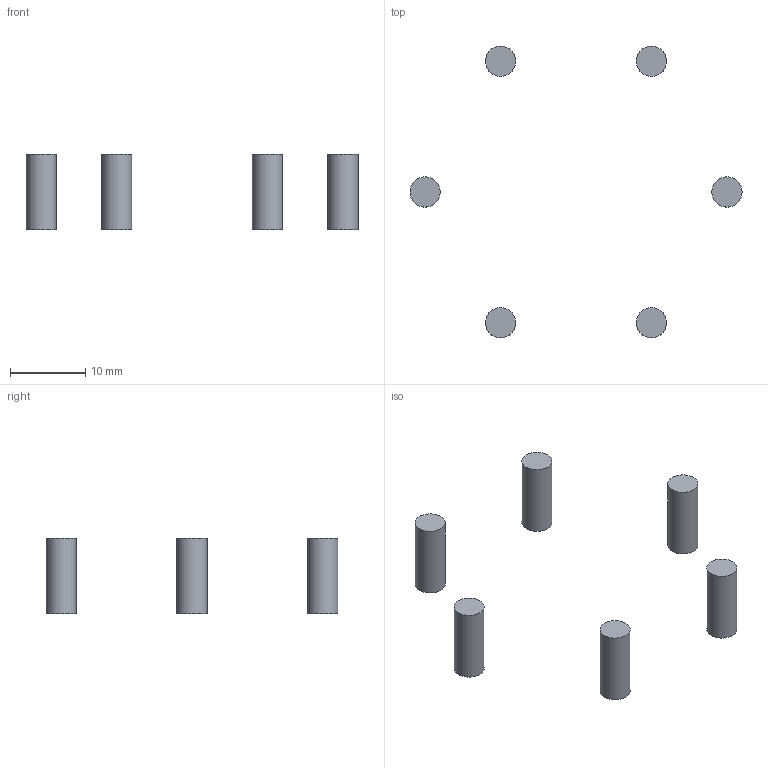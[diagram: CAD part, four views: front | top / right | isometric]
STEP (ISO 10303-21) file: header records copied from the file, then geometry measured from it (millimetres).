
FILE_DESCRIPTION(('Open CASCADE Model'),'2;1');
FILE_NAME('Open CASCADE Shape Model','2026-09-02T22:40:03',('Author'),( 'Open CASCADE'),'Open CASCADE STEP processor 7.8','Open CASCADE 7.8' ,'Unknown');
FILE_SCHEMA(('AUTOMOTIVE_DESIGN { 1 0 10303 214 1 1 1 1 }'));
Length unit declared in the file: millimetre
Products named in the file (6): Open CASCADE STEP translator 7.8 17; Open CASCADE STEP translator 7.8 18; Open CASCADE STEP translator 7.8 19; Open CASCADE STEP translator 7.8 20; Open CASCADE STEP translator 7.8 21; Open CASCADE STEP translator 7.8 22
Bounding box: 44 x 38.64 x 10 mm (x, y, z)
Volume: 754 mm3; surface area: 904.8 mm2
Topology: 6 solids, 6 shells, 18 faces, 18 edges, 12 vertices
Faces by surface type: plane 12, cylinder 6
Full cylindrical faces by diameter (mm): 4 x6
Entity records: 618 total; most frequent: DIRECTION 104, CARTESIAN_POINT 85, ORIENTED_EDGE 36, PCURVE 36, DEFINITIONAL_REPRESENTATION 36, AXIS2_PLACEMENT_3D 31, LINE 30, VECTOR 30
